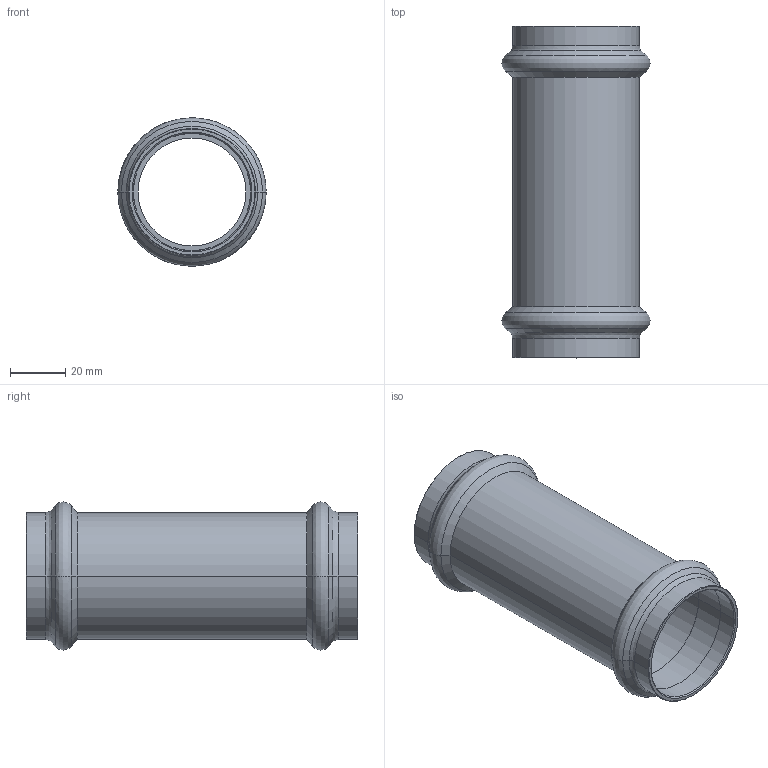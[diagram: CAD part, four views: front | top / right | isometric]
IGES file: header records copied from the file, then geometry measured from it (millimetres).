
Start section: Elysium IGES Interface
Global section: file name: C:\3d modellen sudo\C-Pr VP\SP8275V\8275VW42.igs; native system: CoCreate Modeling 17.00A  17-Jun-2010; preprocessor: CoCreate IGES_3D V2.2; author: Unknown; organization: Unknown; date: 20130129.124700; units: millimetre
Bounding box: 53.61 x 120 x 53.57 mm (x, y, z)
Volume: 36958.1 mm3; surface area: 35720.6 mm2
Topology: 1 solids, 1 shells, 58 faces, 120 edges, 64 vertices
Faces by surface type: bspline 58
